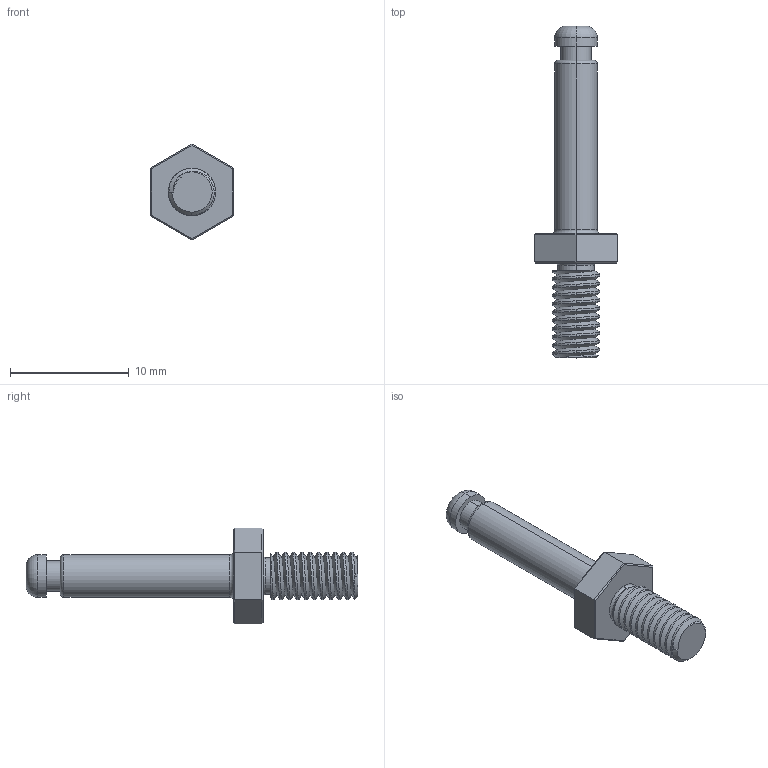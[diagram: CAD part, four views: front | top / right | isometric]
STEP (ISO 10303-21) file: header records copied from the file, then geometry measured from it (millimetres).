
FILE_DESCRIPTION (( 'STEP AP203' ), '1' );
FILE_NAME ('AC-CP000102^AC-CP000151^AC-CP000178.STEP', '2014-02-24T08:28:02', ( 'gasf' ), ( '' ), 'SwSTEP 2.0', 'SolidWorks 2012', '' );
FILE_SCHEMA (( 'CONFIG_CONTROL_DESIGN' ));
Length unit declared in the file: millimetre
Products named in the file (1): AC-CP000102^AC-CP000151^AC-CP000178
Bounding box: 7 x 28 x 8.08 mm (x, y, z)
Volume: 358.8 mm3; surface area: 493.9 mm2
Topology: 1 solids, 1 shells, 68 faces, 163 edges, 101 vertices
Faces by surface type: cylinder 29, plane 26, torus 8, cone 3, bspline 2
Entity records: 2931 total; most frequent: CARTESIAN_POINT 1399, ORIENTED_EDGE 326, DIRECTION 284, EDGE_CURVE 163, AXIS2_PLACEMENT_3D 105, VERTEX_POINT 101, VECTOR 74, LINE 74
